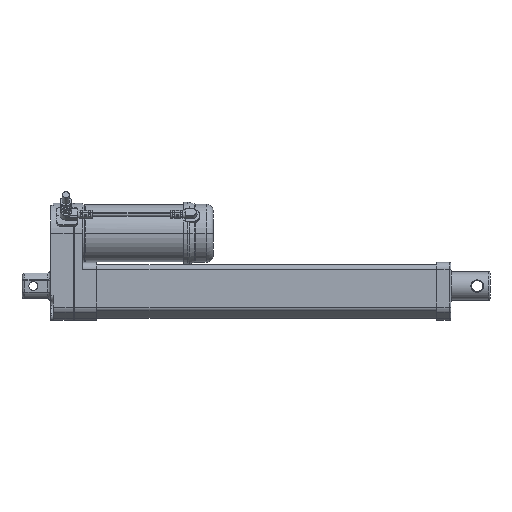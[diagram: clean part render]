
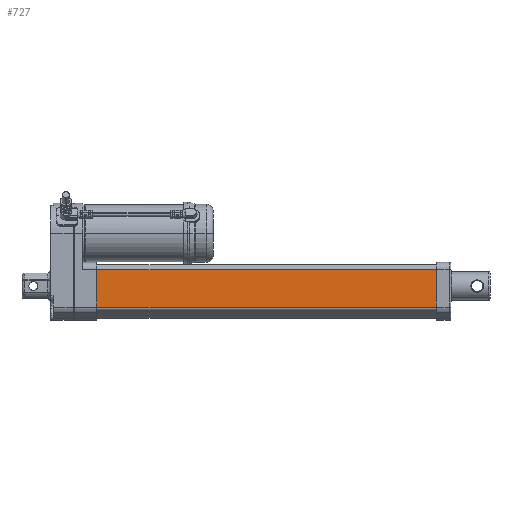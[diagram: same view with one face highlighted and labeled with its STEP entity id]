
A CAD part, top view. The second image highlights one B-rep face of the part: STEP entity #727.
In plain terms, the highlighted planar face has unit normal (0, 0, 1).
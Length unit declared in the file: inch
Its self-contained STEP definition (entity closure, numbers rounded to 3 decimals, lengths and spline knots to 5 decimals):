
#727=ADVANCED_FACE('',(#1804),#1805,.T.);
#1804=FACE_OUTER_BOUND('',#3319,.T.);
#1805=PLANE('',#3320);
#3319=EDGE_LOOP('',(#5539,#5540,#5541,#5542));
#3320=AXIS2_PLACEMENT_3D('',#5543,#5544,#5545);
#5539=ORIENTED_EDGE('',*,*,#9473,.F.);
#5540=ORIENTED_EDGE('',*,*,#9036,.F.);
#5541=ORIENTED_EDGE('',*,*,#9284,.T.);
#5542=ORIENTED_EDGE('',*,*,#9474,.T.);
#5543=CARTESIAN_POINT('',(10.64961,-0.5801,0.76772));
#5544=DIRECTION('',(0.0,-0.0,1.0));
#5545=DIRECTION('',(0.0,1.0,0.0));
#9036=EDGE_CURVE('',#10853,#10849,#10855,.T.);
#9284=EDGE_CURVE('',#10853,#11280,#11282,.T.);
#9473=EDGE_CURVE('',#10849,#11598,#11599,.T.);
#9474=EDGE_CURVE('',#11280,#11598,#11600,.T.);
#10849=VERTEX_POINT('',#13435);
#10853=VERTEX_POINT('',#13440);
#10855=LINE('',#13442,#13443);
#11280=VERTEX_POINT('',#13982);
#11282=LINE('',#13984,#13985);
#11598=VERTEX_POINT('',#14437);
#11599=LINE('',#14438,#14439);
#11600=LINE('',#14440,#14441);
#13435=CARTESIAN_POINT('',(1.27953,-0.5801,0.76772));
#13440=CARTESIAN_POINT('',(10.64961,-0.5801,0.76772));
#13442=CARTESIAN_POINT('',(10.64961,-0.5801,0.76772));
#13443=VECTOR('',#16827,39.37008);
#13982=CARTESIAN_POINT('',(10.64961,0.45276,0.76772));
#13984=CARTESIAN_POINT('',(10.64961,-0.5801,0.76772));
#13985=VECTOR('',#17224,39.37008);
#14437=CARTESIAN_POINT('',(1.27953,0.45276,0.76772));
#14438=CARTESIAN_POINT('',(1.27953,0.45276,0.76772));
#14439=VECTOR('',#17496,39.37008);
#14440=CARTESIAN_POINT('',(10.64961,0.45276,0.76772));
#14441=VECTOR('',#17497,39.37008);
#16827=DIRECTION('',(-1.0,0.0,0.0));
#17224=DIRECTION('',(0.0,1.0,0.0));
#17496=DIRECTION('',(0.0,1.0,0.0));
#17497=DIRECTION('',(-1.0,0.0,0.0));
